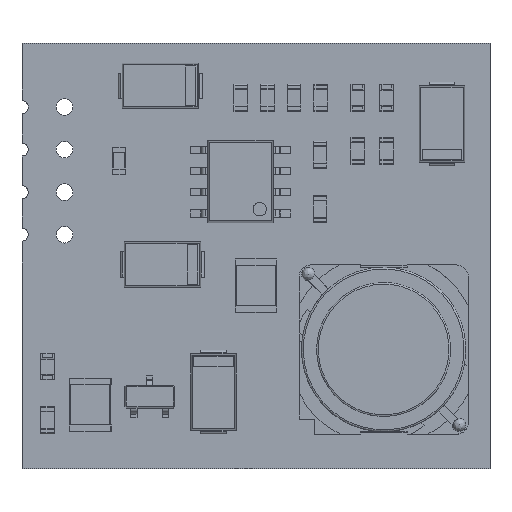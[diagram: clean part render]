
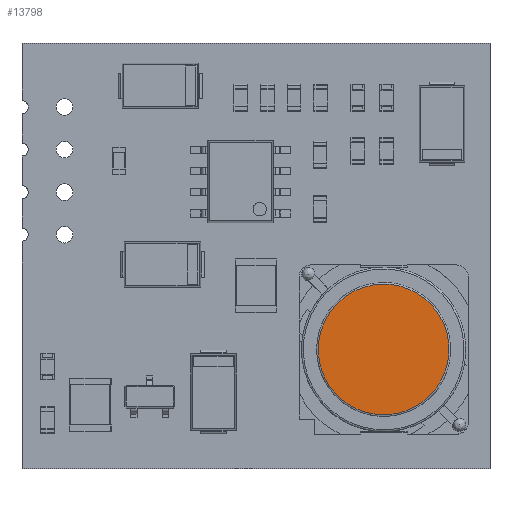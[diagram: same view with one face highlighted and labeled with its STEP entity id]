
A CAD part, top view. The second image highlights one B-rep face of the part: STEP entity #13798.
In plain terms, the highlighted free-form (B-spline) face has degree [1, 1] with [2, 2] control points.
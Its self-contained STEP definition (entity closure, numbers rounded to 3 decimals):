
#13700 = ( BOUNDED_SURFACE() B_SPLINE_SURFACE(2,2,(
    (#13701,#13702,#13703)
    ,(#13704,#13705,#13706)
    ,(#13707,#13708,#13709)
    ,(#13710,#13711,#13712)
    ,(#13713,#13714,#13715)
    ,(#13716,#13717,#13718)
    ,(#13719,#13720,#13721
)),.UNSPECIFIED.,.T.,.F.,.F.) B_SPLINE_SURFACE_WITH_KNOTS((1,2,2,2,2,1),
  (3,3),(-2.094,0.,2.094,4.189,6.283,
    8.378),(0.201,1.571),.UNSPECIFIED.) 
GEOMETRIC_REPRESENTATION_ITEM() RATIONAL_B_SPLINE_SURFACE((
    (1.,0.775,1.)
    ,(0.5,0.387,0.5)
    ,(1.,0.775,1.)
    ,(0.5,0.387,0.5)
    ,(1.,0.775,1.)
    ,(0.5,0.387,0.5)
,(1.,0.775,1.))) REPRESENTATION_ITEM('') SURFACE() );
#13701 = CARTESIAN_POINT('',(3.998,0.,4.42));
#13702 = CARTESIAN_POINT('',(3.982,0.,4.5));
#13703 = CARTESIAN_POINT('',(3.9,0.,4.5));
#13704 = CARTESIAN_POINT('',(3.998,6.925,4.42));
#13705 = CARTESIAN_POINT('',(3.982,6.896,4.5));
#13706 = CARTESIAN_POINT('',(3.9,6.755,4.5));
#13707 = CARTESIAN_POINT('',(-1.999,3.462,4.42));
#13708 = CARTESIAN_POINT('',(-1.991,3.448,4.5));
#13709 = CARTESIAN_POINT('',(-1.95,3.377,4.5));
#13710 = CARTESIAN_POINT('',(-7.996,0.,4.42));
#13711 = CARTESIAN_POINT('',(-7.963,0.,4.5));
#13712 = CARTESIAN_POINT('',(-7.8,0.,4.5));
#13713 = CARTESIAN_POINT('',(-1.999,-3.462,4.42));
#13714 = CARTESIAN_POINT('',(-1.991,-3.448,4.5));
#13715 = CARTESIAN_POINT('',(-1.95,-3.377,4.5));
#13716 = CARTESIAN_POINT('',(3.998,-6.925,4.42));
#13717 = CARTESIAN_POINT('',(3.982,-6.896,4.5));
#13718 = CARTESIAN_POINT('',(3.9,-6.755,4.5));
#13719 = CARTESIAN_POINT('',(3.998,0.,4.42));
#13720 = CARTESIAN_POINT('',(3.982,0.,4.5));
#13721 = CARTESIAN_POINT('',(3.9,0.,4.5));
#13737 = VERTEX_POINT('',#13738);
#13738 = CARTESIAN_POINT('',(3.9,0.,4.5));
#13761 = EDGE_CURVE('',#13737,#13737,#13762,.T.);
#13762 = SURFACE_CURVE('',#13763,(#13771,#13782),.PCURVE_S1.);
#13763 = ( BOUNDED_CURVE() B_SPLINE_CURVE(2,(#13764,#13765,#13766,#13767
    ,#13768,#13769,#13770),.UNSPECIFIED.,.T.,.F.) 
B_SPLINE_CURVE_WITH_KNOTS((1,2,2,2,2,1),(-2.094,0.,
    2.094,4.189,6.283,8.378),
.UNSPECIFIED.) CURVE() GEOMETRIC_REPRESENTATION_ITEM() 
RATIONAL_B_SPLINE_CURVE((1.,0.5,1.,0.5,1.,0.5,1.)) REPRESENTATION_ITEM(
  '') );
#13764 = CARTESIAN_POINT('',(3.9,0.,4.5));
#13765 = CARTESIAN_POINT('',(3.9,6.755,4.5));
#13766 = CARTESIAN_POINT('',(-1.95,3.377,4.5));
#13767 = CARTESIAN_POINT('',(-7.8,0.,4.5));
#13768 = CARTESIAN_POINT('',(-1.95,-3.377,4.5));
#13769 = CARTESIAN_POINT('',(3.9,-6.755,4.5));
#13770 = CARTESIAN_POINT('',(3.9,0.,4.5));
#13771 = PCURVE('',#13700,#13772);
#13772 = DEFINITIONAL_REPRESENTATION('',(#13773),#13781);
#13773 = B_SPLINE_CURVE_WITH_KNOTS('',2,(#13774,#13775,#13776,#13777,
    #13778,#13779,#13780),.UNSPECIFIED.,.F.,.F.,(3,2,2,3),(0.,
    2.094,4.189,6.283),
  .PIECEWISE_BEZIER_KNOTS.);
#13774 = CARTESIAN_POINT('',(0.,1.571));
#13775 = CARTESIAN_POINT('',(1.047,1.571));
#13776 = CARTESIAN_POINT('',(2.094,1.571));
#13777 = CARTESIAN_POINT('',(3.142,1.571));
#13778 = CARTESIAN_POINT('',(4.189,1.571));
#13779 = CARTESIAN_POINT('',(5.236,1.571));
#13780 = CARTESIAN_POINT('',(6.283,1.571));
#13781 = ( GEOMETRIC_REPRESENTATION_CONTEXT(2) 
PARAMETRIC_REPRESENTATION_CONTEXT() REPRESENTATION_CONTEXT('2D SPACE',''
  ) );
#13782 = PCURVE('',#13783,#13788);
#13783 = B_SPLINE_SURFACE_WITH_KNOTS('',1,1,(
    (#13784,#13785)
    ,(#13786,#13787
    )),.UNSPECIFIED.,.F.,.F.,.F.,(2,2),(2,2),(-3.9,3.9),(-3.9,3.9),
  .PIECEWISE_BEZIER_KNOTS.);
#13784 = CARTESIAN_POINT('',(-3.9,-3.9,4.5));
#13785 = CARTESIAN_POINT('',(-3.9,3.9,4.5));
#13786 = CARTESIAN_POINT('',(3.9,-3.9,4.5));
#13787 = CARTESIAN_POINT('',(3.9,3.9,4.5));
#13788 = DEFINITIONAL_REPRESENTATION('',(#13789),#13797);
#13789 = ( BOUNDED_CURVE() B_SPLINE_CURVE(2,(#13790,#13791,#13792,#13793
    ,#13794,#13795,#13796),.UNSPECIFIED.,.T.,.F.) 
B_SPLINE_CURVE_WITH_KNOTS((3,2,2,3),(0.,2.094,4.189,
6.283),.PIECEWISE_BEZIER_KNOTS.) CURVE() 
GEOMETRIC_REPRESENTATION_ITEM() RATIONAL_B_SPLINE_CURVE((1.,0.5,1.,0.5,
1.,0.5,1.)) REPRESENTATION_ITEM('') );
#13790 = CARTESIAN_POINT('',(3.9,0.));
#13791 = CARTESIAN_POINT('',(3.9,6.755));
#13792 = CARTESIAN_POINT('',(-1.95,3.377));
#13793 = CARTESIAN_POINT('',(-7.8,0.));
#13794 = CARTESIAN_POINT('',(-1.95,-3.377));
#13795 = CARTESIAN_POINT('',(3.9,-6.755));
#13796 = CARTESIAN_POINT('',(3.9,0.));
#13797 = ( GEOMETRIC_REPRESENTATION_CONTEXT(2) 
PARAMETRIC_REPRESENTATION_CONTEXT() REPRESENTATION_CONTEXT('2D SPACE',''
  ) );
#13798 = ADVANCED_FACE('',(#13799),#13783,.T.);
#13799 = FACE_BOUND('',#13800,.T.);
#13800 = EDGE_LOOP('',(#13801));
#13801 = ORIENTED_EDGE('',*,*,#13761,.T.);
